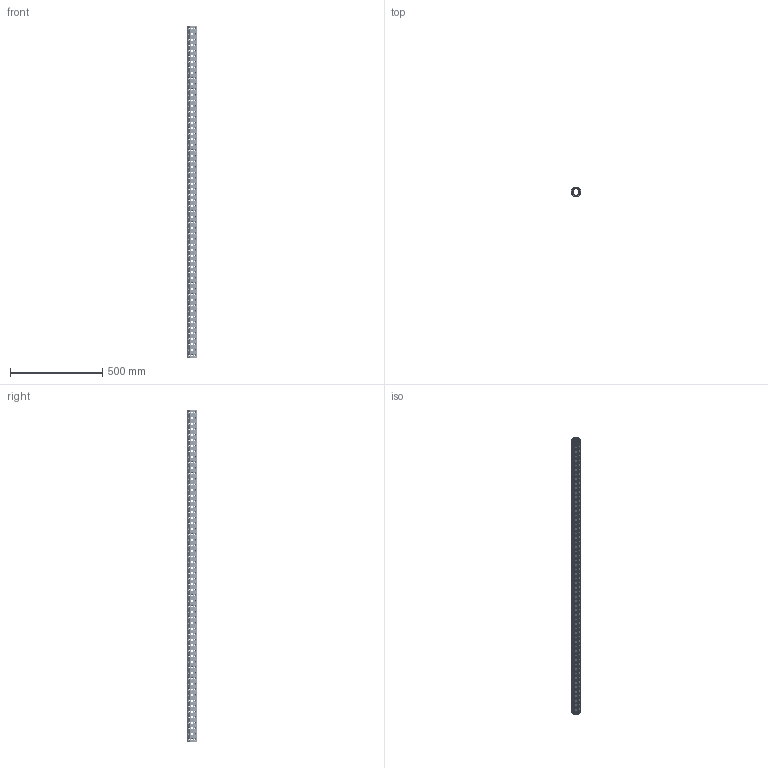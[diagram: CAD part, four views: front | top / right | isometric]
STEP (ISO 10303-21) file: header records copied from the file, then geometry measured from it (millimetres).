
FILE_DESCRIPTION(('CATIA V5 STEP Exchange'),'2;1');
FILE_NAME('U:\Room\唐宝山\EGT002\46-01-010289-01-EGT002-1798.stp','2021-08-24T01:38:46+00:00',('none'),('none'),'CATIA Version 5 Release 21 GA (IN-10)','CATIA V5 STEP AP203','none');
FILE_SCHEMA(('CONFIG_CONTROL_DESIGN'));
Products named in the file (1): 46-01-010289-01-EGT002-1798
Bounding box: 50 x 50 x 1798 mm (x, y, z)
Volume: 1281036.6 mm3; surface area: 617785.7 mm2
Topology: 1 solids, 1 shells, 2484 faces, 6846 edges, 4244 vertices
Faces by surface type: cone 1440, cylinder 1018, plane 26
Entity records: 101500 total; most frequent: CARTESIAN_POINT 41335, ORIENTED_EDGE 13692, DIRECTION 9676, EDGE_CURVE 6846, AXIS2_PLACEMENT_3D 4543, VERTEX_POINT 4244, EDGE_LOOP 3326, VECTOR 2650
